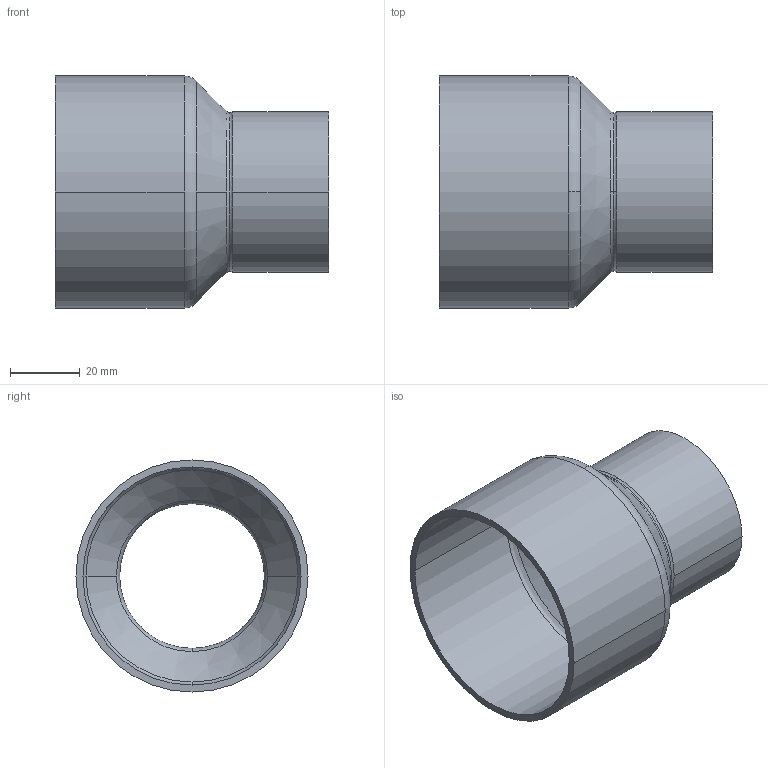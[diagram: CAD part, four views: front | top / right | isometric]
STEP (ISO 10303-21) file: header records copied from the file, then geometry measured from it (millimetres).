
FILE_DESCRIPTION((''),'2;1');
FILE_NAME('G:\Technics\CAD\Bauteile\Serie 15243\152436742.stp','2005-10-21T12:49:49',('boden'),(''),'Autodesk Inventor 8','Autodesk Inventor 8','');
FILE_SCHEMA(('AUTOMOTIVE_DESIGN { 1 0 10303 214 1 1 1 1 }'));
Length unit declared in the file: millimetre
Products named in the file (1): 152436742
Bounding box: 78.5 x 66.7 x 66.7 mm (x, y, z)
Volume: 28836.8 mm3; surface area: 29522.2 mm2
Topology: 1 solids, 1 shells, 26 faces, 68 edges, 44 vertices
Faces by surface type: cylinder 8, torus 6, bspline 6, cone 4, plane 2
Entity records: 1103 total; most frequent: CARTESIAN_POINT 403, DIRECTION 166, ORIENTED_EDGE 136, AXIS2_PLACEMENT_3D 77, EDGE_CURVE 68, CIRCLE 56, VERTEX_POINT 44, EDGE_LOOP 28
